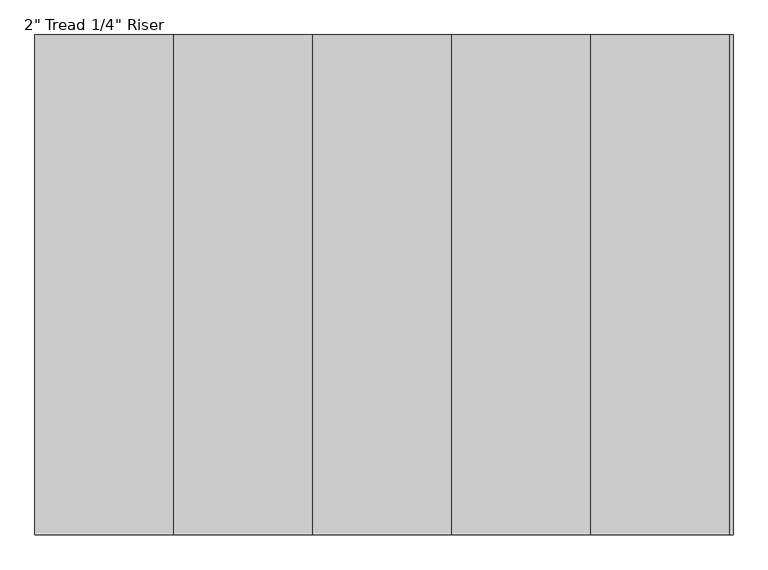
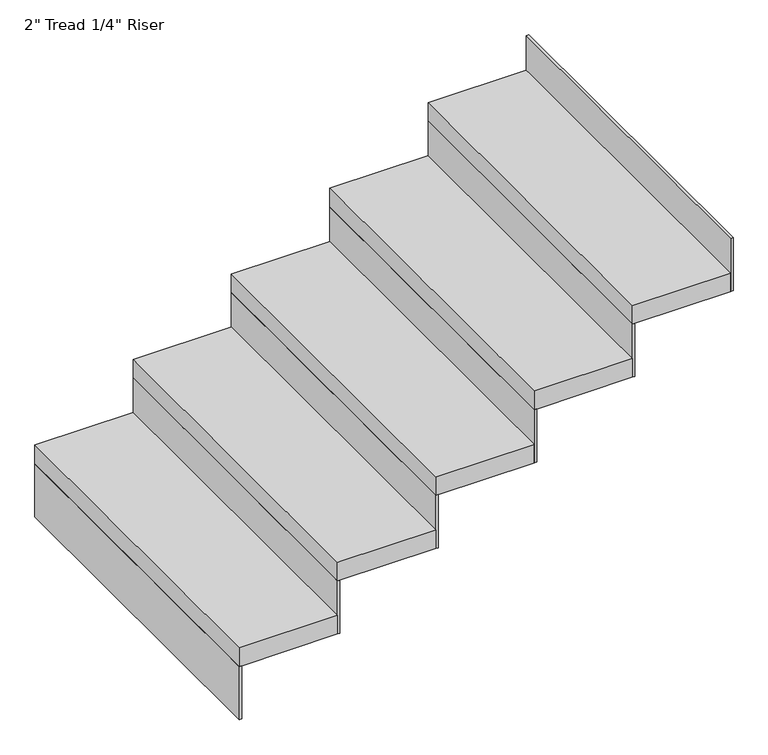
"""IFC4 building model written with IfcOpenShell, lengths in millimetres: stair flight geometry."""

from ifc_helpers import new_model, si_unit, frame, origin, place, context, project, spatial, polyline, outline, extrude, source, transform, mapped, element, save


def stair_flight_679cbe74(model_context):
    return source(origin(), model_context, "Body", "SweptSolid", [
        extrude(outline(polyline([(114029.2382982, -2429.8986114), (114022.8882982, -2429.8986114), (114022.8882982, -1515.4986114), (114029.2382982, -1515.4986114), (114029.2382982, -2429.8986114)])), frame((0.0, 0.0, 2126.3428571), z_axis=(0.0, 0.0, 1.0), x_axis=(1.0, 0.0, 0.0)), (0.0, 0.0, 1.0), 145.1428571),
        extrude(outline(polyline([(114276.8882982, -1515.4986114), (114276.8882982, -2429.8986114), (114022.8882982, -2429.8986114), (114022.8882982, -1515.4986114), (114276.8882982, -1515.4986114)])), frame((0.0, 0.0, 2271.4857143), z_axis=(0.0, 0.0, 1.0), x_axis=(1.0, 0.0, 0.0)), (0.0, 0.0, 1.0), 50.8),
        extrude(outline(polyline([(114283.2382982, -2429.8986114), (114276.8882982, -2429.8986114), (114276.8882982, -1515.4986114), (114283.2382982, -1515.4986114), (114283.2382982, -2429.8986114)])), frame((0.0, 0.0, 2271.4857143), z_axis=(0.0, 0.0, 1.0), x_axis=(1.0, 0.0, 0.0)), (0.0, 0.0, 1.0), 145.1428571),
        extrude(outline(polyline([(114530.8882982, -1515.4986114), (114530.8882982, -2429.8986114), (114276.8882982, -2429.8986114), (114276.8882982, -1515.4986114), (114530.8882982, -1515.4986114)])), frame((0.0, 0.0, 2416.6285714), z_axis=(0.0, 0.0, 1.0), x_axis=(1.0, 0.0, 0.0)), (0.0, 0.0, 1.0), 50.8),
        extrude(outline(polyline([(114537.2382982, -2429.8986114), (114530.8882982, -2429.8986114), (114530.8882982, -1515.4986114), (114537.2382982, -1515.4986114), (114537.2382982, -2429.8986114)])), frame((0.0, 0.0, 2416.6285714), z_axis=(0.0, 0.0, 1.0), x_axis=(1.0, 0.0, 0.0)), (0.0, 0.0, 1.0), 145.1428571),
        extrude(outline(polyline([(114784.8882982, -1515.4986114), (114784.8882982, -2429.8986114), (114530.8882982, -2429.8986114), (114530.8882982, -1515.4986114), (114784.8882982, -1515.4986114)])), frame((0.0, 0.0, 2561.7714286), z_axis=(0.0, 0.0, 1.0), x_axis=(1.0, 0.0, 0.0)), (0.0, 0.0, 1.0), 50.8),
        extrude(outline(polyline([(114791.2382982, -2429.8986114), (114784.8882982, -2429.8986114), (114784.8882982, -1515.4986114), (114791.2382982, -1515.4986114), (114791.2382982, -2429.8986114)])), frame((0.0, 0.0, 2561.7714286), z_axis=(0.0, 0.0, 1.0), x_axis=(1.0, 0.0, 0.0)), (0.0, 0.0, 1.0), 145.1428571),
        extrude(outline(polyline([(115038.8882982, -1515.4986114), (115038.8882982, -2429.8986114), (114784.8882982, -2429.8986114), (114784.8882982, -1515.4986114), (115038.8882982, -1515.4986114)])), frame((0.0, 0.0, 2706.9142857), z_axis=(0.0, 0.0, 1.0), x_axis=(1.0, 0.0, 0.0)), (0.0, 0.0, 1.0), 50.8),
        extrude(outline(polyline([(115045.2382982, -2429.8986114), (115038.8882982, -2429.8986114), (115038.8882982, -1515.4986114), (115045.2382982, -1515.4986114), (115045.2382982, -2429.8986114)])), frame((0.0, 0.0, 2706.9142857), z_axis=(0.0, 0.0, 1.0), x_axis=(1.0, 0.0, 0.0)), (0.0, 0.0, 1.0), 145.1428571),
        extrude(outline(polyline([(115299.2382982, -2429.8986114), (115292.8882982, -2429.8986114), (115292.8882982, -1515.4986114), (115299.2382982, -1515.4986114), (115299.2382982, -2429.8986114)])), frame((0.0, 0.0, 2852.0571429), z_axis=(0.0, 0.0, 1.0), x_axis=(1.0, 0.0, 0.0)), (0.0, 0.0, 1.0), 145.1428571),
        extrude(outline(polyline([(115292.8882982, -1515.4986114), (115292.8882982, -2429.8986114), (115038.8882982, -2429.8986114), (115038.8882982, -1515.4986114), (115292.8882982, -1515.4986114)])), frame((0.0, 0.0, 2852.0571429), z_axis=(0.0, 0.0, 1.0), x_axis=(1.0, 0.0, 0.0)), (0.0, 0.0, 1.0), 50.8),
    ])


if __name__ == "__main__":
    model = new_model("IFC4")
    model_context = context("Model", 3, world=origin())
    ifc_project = project(units=[si_unit("LENGTHUNIT", "METRE", prefix="MILLI")], contexts=[model_context])
    site = spatial("IfcSite", under=ifc_project)
    building = spatial("IfcBuilding", under=site)
    placement = place(None, origin())
    stair_flight_shape = stair_flight_679cbe74(model_context)
    element("IfcStairFlight", 1, ObjectType="2\" Tread 1/4\" Riser", at=placement, inside=building, context=model_context, shape_type="MappedRepresentation", body=[
        mapped(stair_flight_shape, transform((0.0, 0.0, 0.0), x_axis=(1.0, 0.0, 0.0), y_axis=(0.0, 1.0, 0.0), z_axis=(0.0, 0.0, 1.0))),
    ])
    save(model, "model.ifc")
